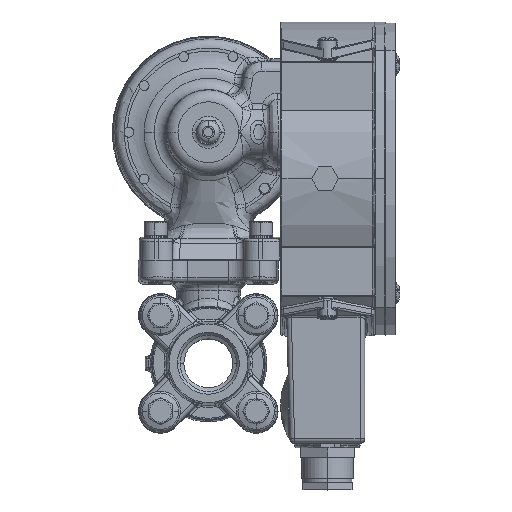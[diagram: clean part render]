
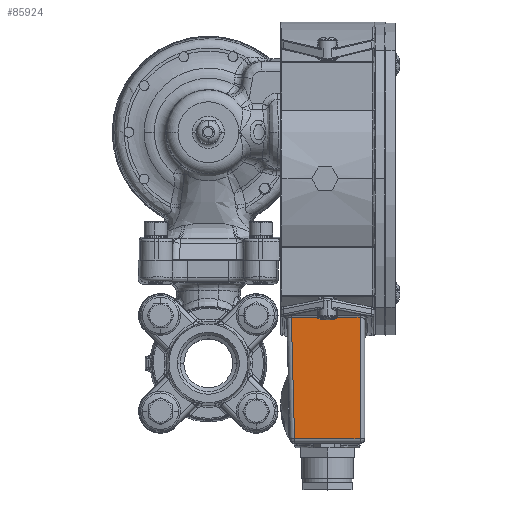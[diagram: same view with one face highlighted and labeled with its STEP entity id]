
A CAD part, top view. The second image highlights one B-rep face of the part: STEP entity #85924.
In plain terms, the highlighted planar face has unit normal (0, -0.026, 1).
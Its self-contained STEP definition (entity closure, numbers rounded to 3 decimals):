
#158 = DIRECTION ( 'NONE',  ( -1., 0., 0. ) ) ;
#5280 = CARTESIAN_POINT ( 'NONE',  ( 47.328, -50.585, 76.178 ) ) ;
#7711 = VERTEX_POINT ( 'NONE', #21906 ) ;
#7862 = DIRECTION ( 'NONE',  ( -1., 0., 0. ) ) ;
#13486 = CARTESIAN_POINT ( 'NONE',  ( 35.4, -50.001, 76.193 ) ) ;
#17277 = CARTESIAN_POINT ( 'NONE',  ( 47.56, -50.585, 76.178 ) ) ;
#17995 = VERTEX_POINT ( 'NONE', #153349 ) ;
#19000 = FACE_OUTER_BOUND ( 'NONE', #27554, .T. ) ;
#19047 = VERTEX_POINT ( 'NONE', #22425 ) ;
#20648 = VECTOR ( 'NONE', #7862, 1000. ) ;
#21906 = CARTESIAN_POINT ( 'NONE',  ( 36.759, -101.898, 74.834 ) ) ;
#22425 = CARTESIAN_POINT ( 'NONE',  ( 64.81, -101.898, 74.834 ) ) ;
#26233 = CARTESIAN_POINT ( 'NONE',  ( 17.405, -103.846, 74.783 ) ) ;
#27027 = CARTESIAN_POINT ( 'NONE',  ( 47.56, -50.585, 76.178 ) ) ;
#27278 = LINE ( 'NONE', #46172, #31059 ) ;
#27554 = EDGE_LOOP ( 'NONE', ( #33147, #147031, #64173, #97414, #82785, #135081, #38962, #28035 ) ) ;
#28035 = ORIENTED_EDGE ( 'NONE', *, *, #139912, .T. ) ;
#28234 = CARTESIAN_POINT ( 'NONE',  ( 17.405, -50.001, 76.193 ) ) ;
#29174 = CARTESIAN_POINT ( 'NONE',  ( 47.107, -50.533, 76.179 ) ) ;
#31059 = VECTOR ( 'NONE', #57994, 1000. ) ;
#31419 = B_SPLINE_CURVE_WITH_KNOTS ( 'NONE', 3,
 ( #17277, #5280, #29174, #112067, #41026, #124061 ),
 .UNSPECIFIED., .F., .F.,
 ( 4, 2, 4 ),
 ( 0., 0.5, 1. ),
 .UNSPECIFIED. ) ;
#31671 = EDGE_CURVE ( 'NONE', #38497, #72404, #31419, .T. ) ;
#33147 = ORIENTED_EDGE ( 'NONE', *, *, #74022, .T. ) ;
#36106 = AXIS2_PLACEMENT_3D ( 'NONE', #26233, #109090, #38115 ) ;
#38115 = DIRECTION ( 'NONE',  ( 0., -1., -0.026 ) ) ;
#38374 = CARTESIAN_POINT ( 'NONE',  ( 46.373, -50.001, 76.193 ) ) ;
#38497 = VERTEX_POINT ( 'NONE', #27027 ) ;
#38962 = ORIENTED_EDGE ( 'NONE', *, *, #95008, .T. ) ;
#41026 = CARTESIAN_POINT ( 'NONE',  ( 46.515, -50.186, 76.188 ) ) ;
#42700 = VERTEX_POINT ( 'NONE', #151020 ) ;
#46172 = CARTESIAN_POINT ( 'NONE',  ( 17.405, -50.001, 76.193 ) ) ;
#49137 = CARTESIAN_POINT ( 'NONE',  ( 54.513, -50.534, 76.179 ) ) ;
#56578 = LINE ( 'NONE', #130408, #119827 ) ;
#57994 = DIRECTION ( 'NONE',  ( -1., 0., 0. ) ) ;
#60962 = CARTESIAN_POINT ( 'NONE',  ( 54.06, -50.585, 76.178 ) ) ;
#64173 = ORIENTED_EDGE ( 'NONE', *, *, #84741, .T. ) ;
#70032 = LINE ( 'NONE', #71765, #94106 ) ;
#71765 = CARTESIAN_POINT ( 'NONE',  ( 35.4, -50.001, 76.193 ) ) ;
#72404 = VERTEX_POINT ( 'NONE', #38374 ) ;
#74022 = EDGE_CURVE ( 'NONE', #117239, #38497, #83427, .T. ) ;
#80540 = VECTOR ( 'NONE', #111128, 1000. ) ;
#82785 = ORIENTED_EDGE ( 'NONE', *, *, #145829, .F. ) ;
#83427 = LINE ( 'NONE', #114674, #20648 ) ;
#84741 = EDGE_CURVE ( 'NONE', #72404, #137145, #143834, .T. ) ;
#85924 = ADVANCED_FACE ( 'NONE', ( #19000 ), #97041, .T. ) ;
#91114 = EDGE_CURVE ( 'NONE', #137145, #7711, #70032, .T. ) ;
#94106 = VECTOR ( 'NONE', #131635, 1000. ) ;
#95008 = EDGE_CURVE ( 'NONE', #42700, #17995, #27278, .T. ) ;
#96253 = CARTESIAN_POINT ( 'NONE',  ( 55.248, -50.001, 76.193 ) ) ;
#97041 = PLANE ( 'NONE',  #36106 ) ;
#97414 = ORIENTED_EDGE ( 'NONE', *, *, #91114, .T. ) ;
#105164 = DIRECTION ( 'NONE',  ( 0., 1., 0.026 ) ) ;
#109090 = DIRECTION ( 'NONE',  ( 0., -0.026, 1. ) ) ;
#109986 = LINE ( 'NONE', #128628, #137973 ) ;
#111128 = DIRECTION ( 'NONE',  ( -1., 0., 0. ) ) ;
#112067 = CARTESIAN_POINT ( 'NONE',  ( 46.69, -50.329, 76.184 ) ) ;
#114674 = CARTESIAN_POINT ( 'NONE',  ( 34.108, -50.585, 76.178 ) ) ;
#114907 = CARTESIAN_POINT ( 'NONE',  ( 54.06, -50.585, 76.178 ) ) ;
#117239 = VERTEX_POINT ( 'NONE', #114907 ) ;
#119827 = VECTOR ( 'NONE', #158, 1000. ) ;
#120317 = CARTESIAN_POINT ( 'NONE',  ( 54.93, -50.329, 76.184 ) ) ;
#124061 = CARTESIAN_POINT ( 'NONE',  ( 46.373, -50.001, 76.193 ) ) ;
#128628 = CARTESIAN_POINT ( 'NONE',  ( 64.81, -103.846, 74.783 ) ) ;
#128727 = EDGE_CURVE ( 'NONE', #19047, #42700, #109986, .T. ) ;
#130408 = CARTESIAN_POINT ( 'NONE',  ( 26.108, -101.898, 74.834 ) ) ;
#131635 = DIRECTION ( 'NONE',  ( 0.026, -0.999, -0.026 ) ) ;
#132293 = CARTESIAN_POINT ( 'NONE',  ( 54.293, -50.585, 76.178 ) ) ;
#135081 = ORIENTED_EDGE ( 'NONE', *, *, #128727, .T. ) ;
#137145 = VERTEX_POINT ( 'NONE', #13486 ) ;
#137973 = VECTOR ( 'NONE', #105164, 1000. ) ;
#139912 = EDGE_CURVE ( 'NONE', #17995, #117239, #147107, .T. ) ;
#143699 = CARTESIAN_POINT ( 'NONE',  ( 55.106, -50.185, 76.188 ) ) ;
#143834 = LINE ( 'NONE', #28234, #80540 ) ;
#145829 = EDGE_CURVE ( 'NONE', #19047, #7711, #56578, .T. ) ;
#147031 = ORIENTED_EDGE ( 'NONE', *, *, #31671, .T. ) ;
#147107 = B_SPLINE_CURVE_WITH_KNOTS ( 'NONE', 3,
 ( #96253, #143699, #120317, #49137, #132293, #60962 ),
 .UNSPECIFIED., .F., .F.,
 ( 4, 2, 4 ),
 ( 0., 0.5, 1. ),
 .UNSPECIFIED. ) ;
#151020 = CARTESIAN_POINT ( 'NONE',  ( 64.81, -50.001, 76.193 ) ) ;
#153349 = CARTESIAN_POINT ( 'NONE',  ( 55.248, -50.001, 76.193 ) ) ;
